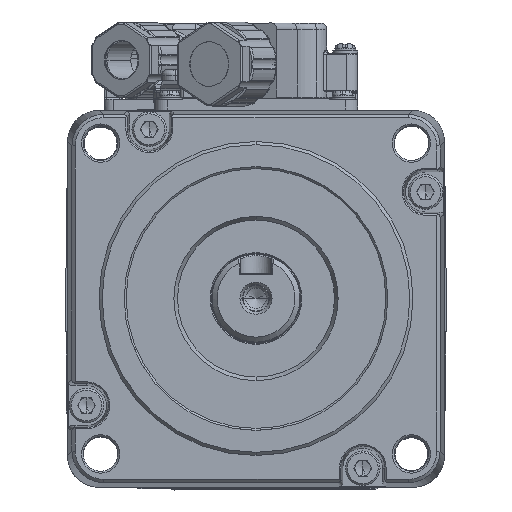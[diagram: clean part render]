
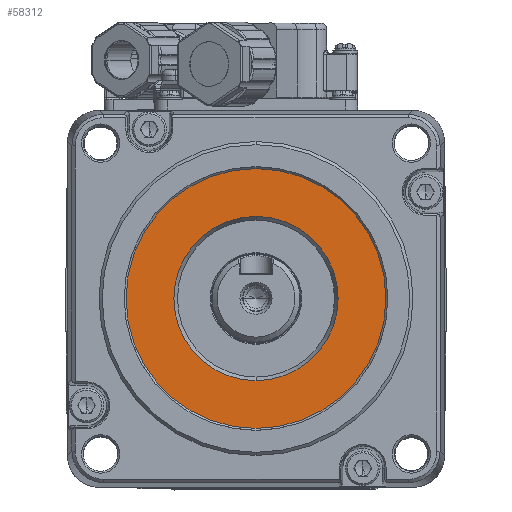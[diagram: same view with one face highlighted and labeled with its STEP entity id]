
A CAD part, top view. The second image highlights one B-rep face of the part: STEP entity #58312.
In plain terms, the highlighted planar face has unit normal (0, 0, 1).
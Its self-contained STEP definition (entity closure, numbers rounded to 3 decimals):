
#17713=CARTESIAN_POINT('',(0.,0.,135.11));
#17714=DIRECTION('',(0.,0.,-1.));
#17715=DIRECTION('',(0.,1.,0.));
#17716=AXIS2_PLACEMENT_3D('',#17713,#17714,#17715);
#17718=CARTESIAN_POINT('',(0.,0.,135.11));
#17719=DIRECTION('',(0.,0.,-1.));
#17720=DIRECTION('',(0.,-1.,0.));
#17721=AXIS2_PLACEMENT_3D('',#17718,#17719,#17720);
#17723=CARTESIAN_POINT('',(0.,0.,135.11));
#17724=DIRECTION('',(0.,0.,1.));
#17725=DIRECTION('',(0.,-1.,0.));
#17726=AXIS2_PLACEMENT_3D('',#17723,#17724,#17725);
#17728=CARTESIAN_POINT('',(0.,0.,135.11));
#17729=DIRECTION('',(0.,0.,1.));
#17730=DIRECTION('',(0.,1.,0.));
#17731=AXIS2_PLACEMENT_3D('',#17728,#17729,#17730);
#36352=CARTESIAN_POINT('',(0.,-20.691,135.11));
#36353=VERTEX_POINT('',#36352);
#36354=CARTESIAN_POINT('',(0.,20.691,135.11));
#36355=VERTEX_POINT('',#36354);
#36356=CARTESIAN_POINT('',(0.,-13.077,135.11));
#36357=CARTESIAN_POINT('',(0.,13.077,135.11));
#36358=VERTEX_POINT('',#36356);
#36359=VERTEX_POINT('',#36357);
#58297=CARTESIAN_POINT('',(0.,0.,135.11));
#58298=DIRECTION('',(0.,0.,-1.));
#58299=DIRECTION('',(0.,-1.,0.));
#58300=AXIS2_PLACEMENT_3D('',#58297,#58298,#58299);
#58301=PLANE('',#58300);
#58302=ORIENTED_EDGE('',*,*,#58264,.T.);
#58303=ORIENTED_EDGE('',*,*,#58279,.T.);
#58304=EDGE_LOOP('',(#58302,#58303));
#58305=FACE_OUTER_BOUND('',#58304,.F.);
#58307=ORIENTED_EDGE('',*,*,#58306,.T.);
#58309=ORIENTED_EDGE('',*,*,#58308,.T.);
#58310=EDGE_LOOP('',(#58307,#58309));
#58311=FACE_BOUND('',#58310,.F.);
#58312=ADVANCED_FACE('',(#58305,#58311),#58301,.F.);
#17717=CIRCLE('',#17716,20.691);
#17722=CIRCLE('',#17721,20.691);
#17727=CIRCLE('',#17726,13.077);
#17732=CIRCLE('',#17731,13.077);
#58264=EDGE_CURVE('',#36355,#36353,#17717,.T.);
#58279=EDGE_CURVE('',#36353,#36355,#17722,.T.);
#58306=EDGE_CURVE('',#36358,#36359,#17727,.T.);
#58308=EDGE_CURVE('',#36359,#36358,#17732,.T.);
